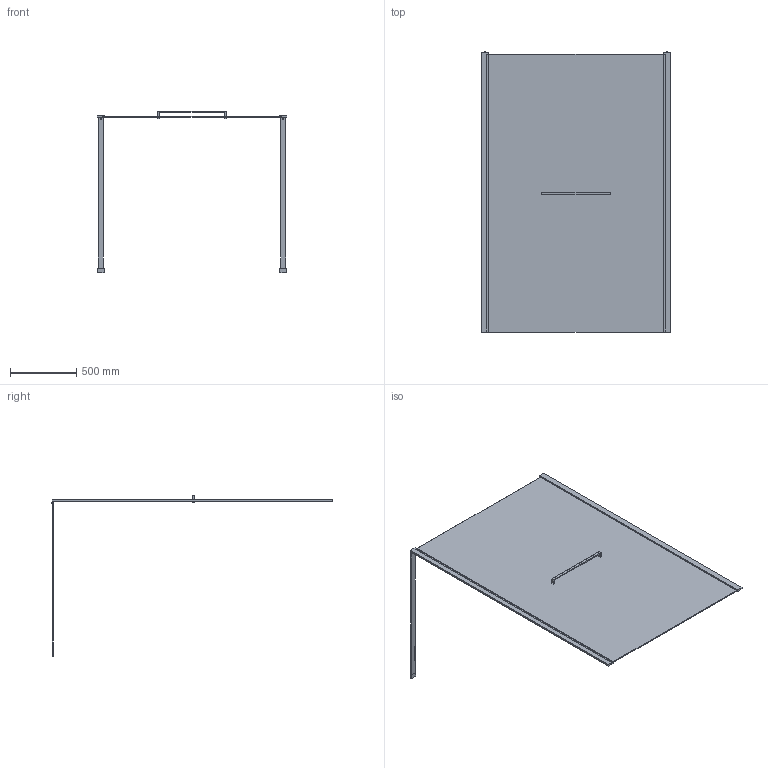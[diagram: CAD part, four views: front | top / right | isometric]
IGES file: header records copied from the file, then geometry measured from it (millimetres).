
Start section: SolidWorks IGES file using analytic representation for surfaces
Global section: file name: D:\Users\M.Szymanski\Desktop\Kabiny\PII_ALT2\03. do przegrania\PII_ALTIIa_140_wspornik poziomy_K3D.IGS; native system: SolidWorks 2011; preprocessor: SolidWorks 2011; author: M.Szymanski; date: 181003.110018; units: millimetre
Bounding box: 1432.8 x 2124.7 x 1220.5 mm (x, y, z)
Surface area: 6632411.6 mm2 (no closed solid volume)
Topology: 0 solids, 0 shells, 70 faces, 440 edges, 556 vertices
Faces by surface type: bspline 62, revolution 8
